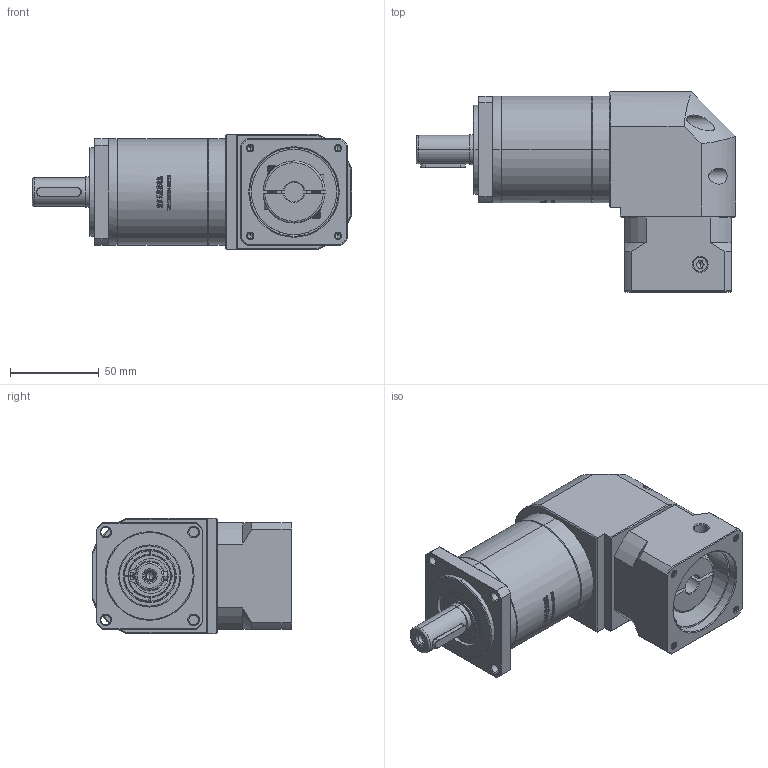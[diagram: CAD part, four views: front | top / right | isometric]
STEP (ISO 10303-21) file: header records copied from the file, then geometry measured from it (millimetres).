
FILE_DESCRIPTION (( 'STEP AP214' ), '1' );
FILE_NAME ('ZFR60-D16-L2-11-50-70-M4.STEP', '2022-04-20T08:30:59', ( '' ), ( 'Microsoft' ), 'SwSTEP 2.0', 'SolidWorks 2016', '' );
FILE_SCHEMA (( 'AUTOMOTIVE_DESIGN' ));
Length unit declared in the file: millimetre
Products named in the file (1): ZFR60-D16-L2-11-50-70-M4
Bounding box: 180 x 112.7 x 65 mm (x, y, z)
Volume: 588302.7 mm3; surface area: 81980.2 mm2
Topology: 5 solids, 6 shells, 2684 faces, 7320 edges, 4773 vertices
Faces by surface type: plane 1397, bspline 579, cylinder 394, cone 290, torus 24
Entity records: 146760 total; most frequent: CARTESIAN_POINT 54905, ORIENTED_EDGE 14596, DIRECTION 10510, EDGE_CURVE 7298, VERTEX_POINT 4773, LINE 4380, VECTOR 4380, AXIS2_PLACEMENT_3D 3065
